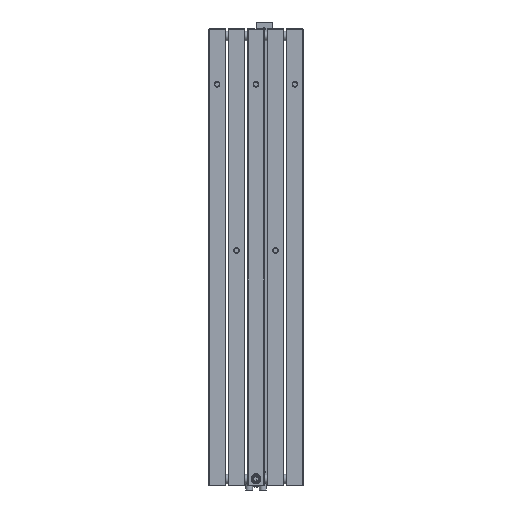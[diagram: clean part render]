
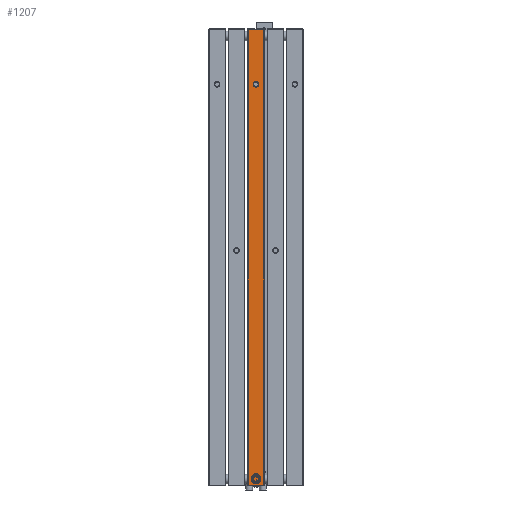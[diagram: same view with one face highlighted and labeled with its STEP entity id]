
A CAD part, front view. The second image highlights one B-rep face of the part: STEP entity #1207.
In plain terms, the highlighted planar face has unit normal (0, -1, 0) as drawn and (0, 1, 0) by its records, which use the part's own axes.
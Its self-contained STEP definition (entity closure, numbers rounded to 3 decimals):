
#1207 = ADVANCED_FACE( '', ( #2569 ), #2570, .F. );
#2569 = FACE_OUTER_BOUND( '', #4720, .T. );
#2570 = PLANE( '', #4721 );
#4720 = EDGE_LOOP( '', ( #7910, #7911, #7912, #7913 ) );
#4721 = AXIS2_PLACEMENT_3D( '', #7914, #7915, #7916 );
#7910 = ORIENTED_EDGE( '', *, *, #9880, .T. );
#7911 = ORIENTED_EDGE( '', *, *, #9694, .T. );
#7912 = ORIENTED_EDGE( '', *, *, #9754, .T. );
#7913 = ORIENTED_EDGE( '', *, *, #9965, .T. );
#7914 = CARTESIAN_POINT( '', ( 60., 10., 1650. ) );
#7915 = DIRECTION( '', ( 0., -1., 0. ) );
#7916 = DIRECTION( '', ( 0., 0., -1. ) );
#9694 = EDGE_CURVE( '', #10711, #11069, #11176, .F. );
#9754 = EDGE_CURVE( '', #11069, #11266, #11267, .T. );
#9880 = EDGE_CURVE( '', #11433, #10711, #11434, .F. );
#9965 = EDGE_CURVE( '', #11266, #11433, #11540, .T. );
#10711 = VERTEX_POINT( '', #14009 );
#11069 = VERTEX_POINT( '', #15548 );
#11176 = LINE( '', #16276, #16277 );
#11266 = VERTEX_POINT( '', #16500 );
#11267 = LINE( '', #16501, #16502 );
#11433 = VERTEX_POINT( '', #16886 );
#11434 = LINE( '', #16887, #16888 );
#11540 = LINE( '', #17329, #17330 );
#14009 = CARTESIAN_POINT( '', ( 1., 10., 1649. ) );
#15548 = CARTESIAN_POINT( '', ( 59., 10., 1649. ) );
#16276 = CARTESIAN_POINT( '', ( 59., 10., 1649. ) );
#16277 = VECTOR( '', #19009, 1000. );
#16500 = CARTESIAN_POINT( '', ( 59., 10., 1. ) );
#16501 = CARTESIAN_POINT( '', ( 59., 10., 1650. ) );
#16502 = VECTOR( '', #19078, 1000. );
#16886 = CARTESIAN_POINT( '', ( 1., 10., 1. ) );
#16887 = CARTESIAN_POINT( '', ( 1., 10., 1650. ) );
#16888 = VECTOR( '', #19223, 1000. );
#17329 = CARTESIAN_POINT( '', ( 60., 10., 1. ) );
#17330 = VECTOR( '', #19307, 1000. );
#19009 = DIRECTION( '', ( -1., 0., 0. ) );
#19078 = DIRECTION( '', ( 0., 0., -1. ) );
#19223 = DIRECTION( '', ( 0., 0., -1. ) );
#19307 = DIRECTION( '', ( -1., 0., 0. ) );
